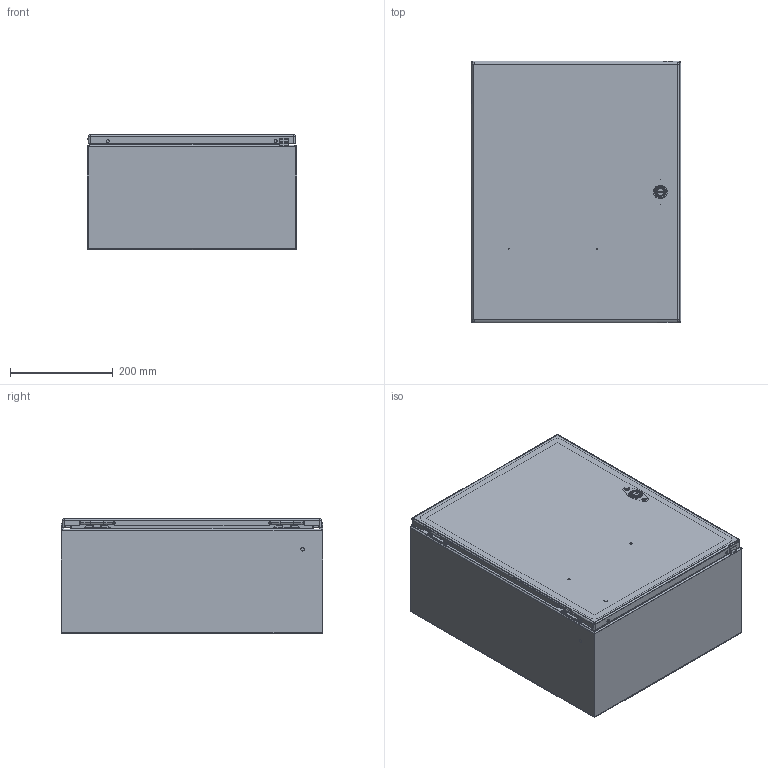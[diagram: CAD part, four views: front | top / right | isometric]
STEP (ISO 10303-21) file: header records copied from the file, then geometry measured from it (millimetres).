
FILE_DESCRIPTION (( 'STEP AP203' ), '1' );
FILE_NAME ('csd20168lg.STEP', '2012-05-21T14:11:19', ( 'User' ), ( 'Pentair Inc' ), 'SwSTEP 2.0', 'SolidWorks 2010', '' );
FILE_SCHEMA (( 'CONFIG_CONTROL_DESIGN' ));
Length unit declared in the file: inch
Products named in the file (27): csd20168lg; 87934524; 87934363_default; 23271001_After Weld; 87937923_assy; 87937963_weldment; 87937909; 99401225; 87931362_87931362; 64101001; 64201001; 87541994_Installed Height; 87541995; 64202001; 64210001; 64203001; 87927840_87927840; 87932903; 64138001; 89057561; 87543027; 89076399; 89076193; 89056623; 87929507; 87929767; 87929769_Installed on Pin
Assembly tree (38 placements, depth 4):
  csd20168lg
    87543027  x2
    89076399  x2
      89076193
      89056623
    87934524
      23271001_After Weld  x4
      99401225
      87934363_default
    87929507  x2
      87929769_Installed on Pin
      87929767
    87937923_assy
      64138001  x2
      87932903  x2
      87937963_weldment
        87931362_87931362  x4
        87937909
        99401225
      64101001
        87927840_87927840
        87541995
        87541994_Installed Height
        64201001
        64203001
        64202001
        64210001
      89057561
Bounding box: 406.4 x 508.73 x 223.9 mm (x, y, z)
Volume: 1206335.7 mm3; surface area: 1825529.3 mm2
Topology: 35 solids, 35 shells, 1689 faces, 4125 edges, 2490 vertices
Faces by surface type: plane 652, cylinder 547, bspline 288, torus 106, cone 88, sphere 8
Entity records: 46223 total; most frequent: CARTESIAN_POINT 16302, ORIENTED_EDGE 5874, DIRECTION 5117, EDGE_CURVE 2937, AXIS2_PLACEMENT_3D 1833, VERTEX_POINT 1802, VECTOR 1451, LINE 1451
